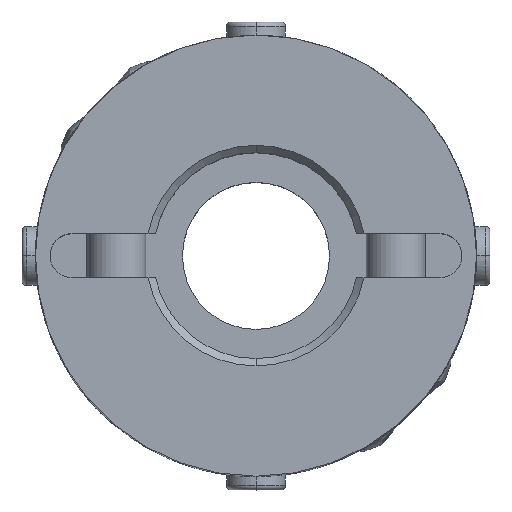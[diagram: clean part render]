
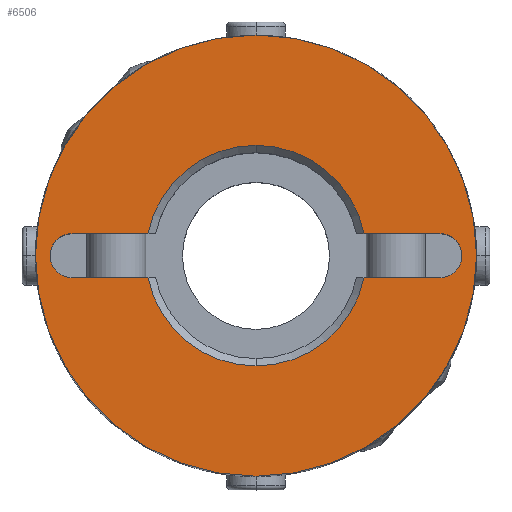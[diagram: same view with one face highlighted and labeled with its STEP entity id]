
A CAD part, top view. The second image highlights one B-rep face of the part: STEP entity #6506.
In plain terms, the highlighted planar face has unit normal (0, 0, 1).
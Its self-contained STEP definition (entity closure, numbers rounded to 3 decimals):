
#2703=CARTESIAN_POINT('',(0.,7.5,15.0));
#2704=VERTEX_POINT('',#2703);
#2720=CARTESIAN_POINT('',(7.348,1.5,15.0));
#2721=VERTEX_POINT('',#2720);
#2735=CARTESIAN_POINT('',(0.,0.,15.0));
#2736=DIRECTION('',(0.0,0.0,1.0));
#2737=DIRECTION('',(0.0,1.0,0.0));
#2738=AXIS2_PLACEMENT_3D('',#2735,#2736,#2737);
#2739=CIRCLE('',#2738,7.5);
#2740=EDGE_CURVE('',#2721,#2704,#2739,.T.);
#2750=CARTESIAN_POINT('',(0.,-7.5,15.0));
#2751=VERTEX_POINT('',#2750);
#2760=CARTESIAN_POINT('',(7.348,-1.5,15.0));
#2761=VERTEX_POINT('',#2760);
#2762=CARTESIAN_POINT('',(0.,0.,15.0));
#2763=DIRECTION('',(0.0,0.0,1.0));
#2764=DIRECTION('',(0.0,1.0,0.0));
#2765=AXIS2_PLACEMENT_3D('',#2762,#2763,#2764);
#2766=CIRCLE('',#2765,7.5);
#2767=EDGE_CURVE('',#2751,#2761,#2766,.T.);
#2926=CARTESIAN_POINT('',(-13.561,-1.061,15.0));
#2927=VERTEX_POINT('',#2926);
#2943=CARTESIAN_POINT('',(-12.5,1.5,15.0));
#2944=VERTEX_POINT('',#2943);
#2951=CARTESIAN_POINT('',(-12.5,0.,15.0));
#2952=DIRECTION('',(0.0,0.0,1.0));
#2953=DIRECTION('',(-0.707,0.707,0.0));
#2954=AXIS2_PLACEMENT_3D('',#2951,#2952,#2953);
#2955=CIRCLE('',#2954,1.5);
#2956=EDGE_CURVE('',#2944,#2927,#2955,.T.);
#2968=CARTESIAN_POINT('',(13.561,-1.061,15.0));
#2969=VERTEX_POINT('',#2968);
#2985=CARTESIAN_POINT('',(12.5,-1.5,15.0));
#2986=VERTEX_POINT('',#2985);
#2993=CARTESIAN_POINT('',(12.5,0.,15.0));
#2994=DIRECTION('',(0.0,0.0,1.0));
#2995=DIRECTION('',(0.707,-0.707,0.0));
#2996=AXIS2_PLACEMENT_3D('',#2993,#2994,#2995);
#2997=CIRCLE('',#2996,1.5);
#2998=EDGE_CURVE('',#2986,#2969,#2997,.T.);
#3452=CARTESIAN_POINT('',(0.,-15.,15.0));
#3453=VERTEX_POINT('',#3452);
#3460=CARTESIAN_POINT('',(0.,15.,15.0));
#3461=VERTEX_POINT('',#3460);
#3462=CARTESIAN_POINT('',(0.,0.,15.0));
#3463=DIRECTION('',(0.0,0.0,-1.0));
#3464=DIRECTION('',(0.0,1.0,0.0));
#3465=AXIS2_PLACEMENT_3D('',#3462,#3463,#3464);
#3466=CIRCLE('',#3465,15.0);
#3467=EDGE_CURVE('',#3453,#3461,#3466,.T.);
#5779=CARTESIAN_POINT('',(0.,0.,15.0));
#5780=DIRECTION('',(0.0,0.0,-1.0));
#5781=DIRECTION('',(0.0,1.0,0.0));
#5782=AXIS2_PLACEMENT_3D('',#5779,#5780,#5781);
#5783=CIRCLE('',#5782,15.0);
#5784=EDGE_CURVE('',#3461,#3453,#5783,.T.);
#6272=CARTESIAN_POINT('',(12.5,1.5,15.0));
#6273=VERTEX_POINT('',#6272);
#6280=CARTESIAN_POINT('',(7.348,1.5,15.0));
#6281=DIRECTION('',(1.0,0.0,0.0));
#6282=VECTOR('',#6281,5.152);
#6283=LINE('',#6280,#6282);
#6284=EDGE_CURVE('',#2721,#6273,#6283,.T.);
#6308=CARTESIAN_POINT('',(12.5,0.,15.0));
#6309=DIRECTION('',(0.0,0.0,1.0));
#6310=DIRECTION('',(0.707,-0.707,0.0));
#6311=AXIS2_PLACEMENT_3D('',#6308,#6309,#6310);
#6312=CIRCLE('',#6311,1.5);
#6313=EDGE_CURVE('',#2969,#6273,#6312,.T.);
#6326=CARTESIAN_POINT('',(-12.5,-1.5,15.0));
#6327=VERTEX_POINT('',#6326);
#6328=CARTESIAN_POINT('',(-12.5,0.,15.0));
#6329=DIRECTION('',(0.0,0.0,1.0));
#6330=DIRECTION('',(-0.707,0.707,0.0));
#6331=AXIS2_PLACEMENT_3D('',#6328,#6329,#6330);
#6332=CIRCLE('',#6331,1.5);
#6333=EDGE_CURVE('',#2927,#6327,#6332,.T.);
#6366=CARTESIAN_POINT('',(-7.348,1.5,15.0));
#6367=VERTEX_POINT('',#6366);
#6381=CARTESIAN_POINT('',(-12.5,1.5,15.0));
#6382=DIRECTION('',(1.0,0.0,0.0));
#6383=VECTOR('',#6382,5.152);
#6384=LINE('',#6381,#6383);
#6385=EDGE_CURVE('',#2944,#6367,#6384,.T.);
#6400=CARTESIAN_POINT('',(-7.348,-1.5,15.0));
#6401=VERTEX_POINT('',#6400);
#6402=CARTESIAN_POINT('',(-7.348,-1.5,15.0));
#6403=DIRECTION('',(-1.0,0.0,0.0));
#6404=VECTOR('',#6403,5.152);
#6405=LINE('',#6402,#6404);
#6406=EDGE_CURVE('',#6401,#6327,#6405,.T.);
#6458=CARTESIAN_POINT('',(12.5,-1.5,15.0));
#6459=DIRECTION('',(-1.0,0.0,0.0));
#6460=VECTOR('',#6459,5.152);
#6461=LINE('',#6458,#6460);
#6462=EDGE_CURVE('',#2986,#2761,#6461,.T.);
#6471=CARTESIAN_POINT('',(0.,1.364,15.0));
#6472=DIRECTION('',(0.0,0.0,1.0));
#6473=DIRECTION('',(0.0,1.0,0.0));
#6474=AXIS2_PLACEMENT_3D('',#6471,#6472,#6473);
#6475=PLANE('',#6474);
#6476=ORIENTED_EDGE('',*,*,#5784,.F.);
#6477=ORIENTED_EDGE('',*,*,#3467,.F.);
#6478=EDGE_LOOP('',(#6476,#6477));
#6479=FACE_OUTER_BOUND('',#6478,.T.);
#6480=ORIENTED_EDGE('',*,*,#6284,.T.);
#6481=ORIENTED_EDGE('',*,*,#6313,.F.);
#6482=ORIENTED_EDGE('',*,*,#2998,.F.);
#6483=ORIENTED_EDGE('',*,*,#6462,.T.);
#6484=ORIENTED_EDGE('',*,*,#2767,.F.);
#6485=CARTESIAN_POINT('',(0.,0.,15.0));
#6486=DIRECTION('',(0.0,0.0,1.0));
#6487=DIRECTION('',(0.0,1.0,0.0));
#6488=AXIS2_PLACEMENT_3D('',#6485,#6486,#6487);
#6489=CIRCLE('',#6488,7.5);
#6490=EDGE_CURVE('',#6401,#2751,#6489,.T.);
#6491=ORIENTED_EDGE('',*,*,#6490,.F.);
#6492=ORIENTED_EDGE('',*,*,#6406,.T.);
#6493=ORIENTED_EDGE('',*,*,#6333,.F.);
#6494=ORIENTED_EDGE('',*,*,#2956,.F.);
#6495=ORIENTED_EDGE('',*,*,#6385,.T.);
#6496=CARTESIAN_POINT('',(0.,0.,15.0));
#6497=DIRECTION('',(0.0,0.0,1.0));
#6498=DIRECTION('',(0.0,1.0,0.0));
#6499=AXIS2_PLACEMENT_3D('',#6496,#6497,#6498);
#6500=CIRCLE('',#6499,7.5);
#6501=EDGE_CURVE('',#2704,#6367,#6500,.T.);
#6502=ORIENTED_EDGE('',*,*,#6501,.F.);
#6503=ORIENTED_EDGE('',*,*,#2740,.F.);
#6504=EDGE_LOOP('',(#6480,#6481,#6482,#6483,#6484,#6491,#6492,#6493,#6494,#6495,#6502,#6503));
#6505=FACE_BOUND('',#6504,.T.);
#6506=ADVANCED_FACE('',(#6479,#6505),#6475,.T.);
